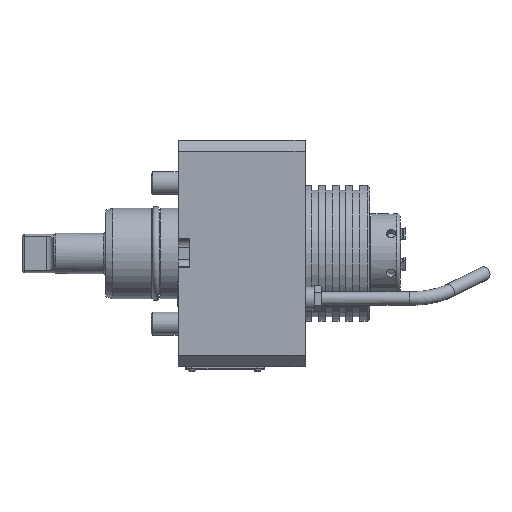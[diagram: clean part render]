
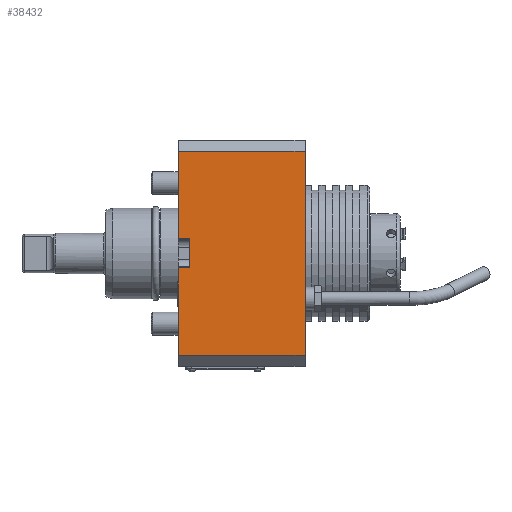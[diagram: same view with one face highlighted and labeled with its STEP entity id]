
A CAD part, top view. The second image highlights one B-rep face of the part: STEP entity #38432.
In plain terms, the highlighted planar face has unit normal (0, 0, 1).
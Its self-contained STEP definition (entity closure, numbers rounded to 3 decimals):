
#16367=VECTOR('',#25206,1.);
#16393=VECTOR('',#25256,1.);
#16399=VECTOR('',#25286,1.);
#16400=VECTOR('',#25287,1.);
#16401=VECTOR('',#25288,1.);
#16402=VECTOR('',#25289,1.);
#16403=VECTOR('',#25290,1.);
#16404=VECTOR('',#25291,1.);
#17075=LINE('',#27966,#16367);
#17101=LINE('',#28042,#16393);
#17107=LINE('',#28076,#16399);
#17108=LINE('',#28078,#16400);
#17109=LINE('',#28079,#16401);
#17110=LINE('',#28081,#16402);
#17111=LINE('',#28083,#16403);
#17112=LINE('',#28084,#16404);
#17785=PLANE('',#37256);
#18196=ORIENTED_EDGE('',*,*,#22122,.T.);
#18197=ORIENTED_EDGE('',*,*,#22177,.F.);
#18198=ORIENTED_EDGE('',*,*,#22178,.F.);
#18199=ORIENTED_EDGE('',*,*,#22179,.F.);
#18200=ORIENTED_EDGE('',*,*,#22160,.T.);
#18201=ORIENTED_EDGE('',*,*,#22180,.T.);
#18202=ORIENTED_EDGE('',*,*,#22181,.T.);
#18203=ORIENTED_EDGE('',*,*,#22182,.T.);
#21176=VERTEX_POINT('',#27964);
#21177=VERTEX_POINT('',#27965);
#21214=VERTEX_POINT('',#28039);
#21215=VERTEX_POINT('',#28041);
#21231=VERTEX_POINT('',#28075);
#21232=VERTEX_POINT('',#28077);
#21233=VERTEX_POINT('',#28080);
#21234=VERTEX_POINT('',#28082);
#22122=EDGE_CURVE('',#21176,#21177,#17075,.T.);
#22160=EDGE_CURVE('',#21215,#21214,#17101,.T.);
#22177=EDGE_CURVE('',#21231,#21177,#17107,.T.);
#22178=EDGE_CURVE('',#21232,#21231,#17108,.T.);
#22179=EDGE_CURVE('',#21215,#21232,#17109,.T.);
#22180=EDGE_CURVE('',#21214,#21233,#17110,.T.);
#22181=EDGE_CURVE('',#21233,#21234,#17111,.T.);
#22182=EDGE_CURVE('',#21234,#21176,#17112,.T.);
#23457=EDGE_LOOP('',(#18196,#18197,#18198,#18199,#18200,#18201,#18202,#18203));
#24329=FACE_BOUND('',#23457,.T.);
#25206=DIRECTION('',(0.,-38.5,0.));
#25256=DIRECTION('',(0.,-38.5,0.));
#25284=DIRECTION('',(0.,0.,1.));
#25285=DIRECTION('',(0.,-1.,0.));
#25286=DIRECTION('',(-5.,0.,0.));
#25287=DIRECTION('',(0.,13.,0.));
#25288=DIRECTION('',(5.,0.,0.));
#25289=DIRECTION('',(56.,0.,0.));
#25290=DIRECTION('',(0.,90.,0.));
#25291=DIRECTION('',(-56.,0.,0.));
#27964=CARTESIAN_POINT('',(0.,45.,57.5));
#27965=CARTESIAN_POINT('',(0.,6.5,57.5));
#27966=CARTESIAN_POINT('',(0.,45.,57.5));
#28039=CARTESIAN_POINT('',(0.,-45.,57.5));
#28041=CARTESIAN_POINT('',(0.,-6.5,57.5));
#28042=CARTESIAN_POINT('',(0.,-6.5,57.5));
#28074=CARTESIAN_POINT('',(0.,-6.5,57.5));
#28075=CARTESIAN_POINT('',(5.,6.5,57.5));
#28076=CARTESIAN_POINT('',(5.,6.5,57.5));
#28077=CARTESIAN_POINT('',(5.,-6.5,57.5));
#28078=CARTESIAN_POINT('',(5.,-6.5,57.5));
#28079=CARTESIAN_POINT('',(0.,-6.5,57.5));
#28080=CARTESIAN_POINT('',(56.,-45.,57.5));
#28081=CARTESIAN_POINT('',(0.,-45.,57.5));
#28082=CARTESIAN_POINT('',(56.,45.,57.5));
#28083=CARTESIAN_POINT('',(56.,-45.,57.5));
#28084=CARTESIAN_POINT('',(56.,45.,57.5));
#37256=AXIS2_PLACEMENT_3D('',#28074,#25284,#25285);
#38432=ADVANCED_FACE('',(#24329),#17785,.T.);
